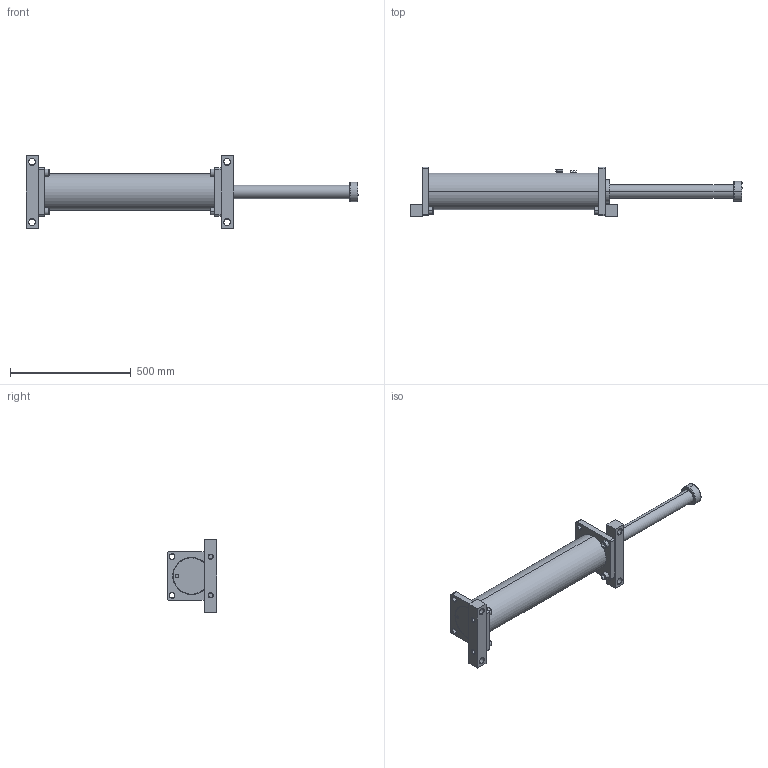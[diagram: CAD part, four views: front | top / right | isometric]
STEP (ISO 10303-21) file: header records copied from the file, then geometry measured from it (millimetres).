
FILE_DESCRIPTION (( 'STEP AP214' ), '1' );
FILE_NAME ('LDD3.5X20.STEP', '2019-01-16T08:16:14', ( 'user' ), ( 'Microsoft' ), 'SwSTEP 2.0', 'SolidWorks 2016', '' );
FILE_SCHEMA (( 'AUTOMOTIVE_DESIGN' ));
Length unit declared in the file: inch
Products named in the file (1): LDD3.5X20
Bounding box: 1373.4 x 205 x 300 mm (x, y, z)
Surface area: 843161.9 mm2 (no closed solid volume)
Topology: 0 solids, 22 shells, 265 faces, 723 edges, 488 vertices
Faces by surface type: plane 92, cylinder 88, cone 53, bspline 32
Entity records: 15166 total; most frequent: CARTESIAN_POINT 8490, DIRECTION 1405, ORIENTED_EDGE 1298, EDGE_CURVE 723, AXIS2_PLACEMENT_3D 550, VERTEX_POINT 488, EDGE_LOOP 323, CIRCLE 316
